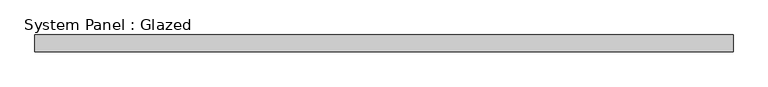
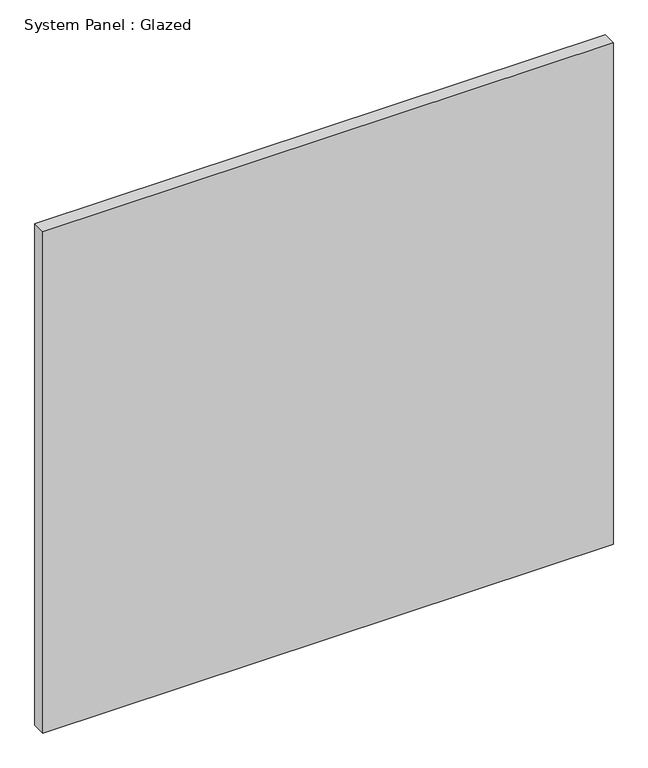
"""IFC4 building model written with IfcOpenShell, lengths in millimetres: plate geometry, System Panel : Glazed."""

from ifc_helpers import new_model, si_unit, origin, origin_with_axes, place, context, project, spatial, polyline, outline, extrude, source, transform, mapped, element, save


def system_panel_glazed_e33ebc36(model_context):
    return source(origin(), model_context, "Body", "SweptSolid", [
        extrude(outline(polyline([(524.9999999, 24.5), (-524.9999999, 24.5), (-524.9999999, 49.5), (524.9999999, 49.5), (524.9999999, 24.5)])), origin_with_axes(), (0.0, 0.0, 1.0), 975.0),
    ])


if __name__ == "__main__":
    model = new_model("IFC4")
    model_context = context("Model", 3, world=origin())
    ifc_project = project(units=[si_unit("LENGTHUNIT", "METRE", prefix="MILLI")], contexts=[model_context])
    site = spatial("IfcSite", under=ifc_project)
    building = spatial("IfcBuilding", under=site)
    placement = place(None, origin())
    system_panel_glazed_shape = system_panel_glazed_e33ebc36(model_context)
    element("IfcPlate", 1, ObjectType="System Panel : Glazed", at=placement, inside=building, context=model_context, shape_type="MappedRepresentation", body=[
        mapped(system_panel_glazed_shape, transform((0.0, 0.0, 0.0), x_axis=(1.0, 0.0, 0.0), y_axis=(0.0, 1.0, 0.0), z_axis=(0.0, 0.0, 1.0))),
    ])
    save(model, "model.ifc")
